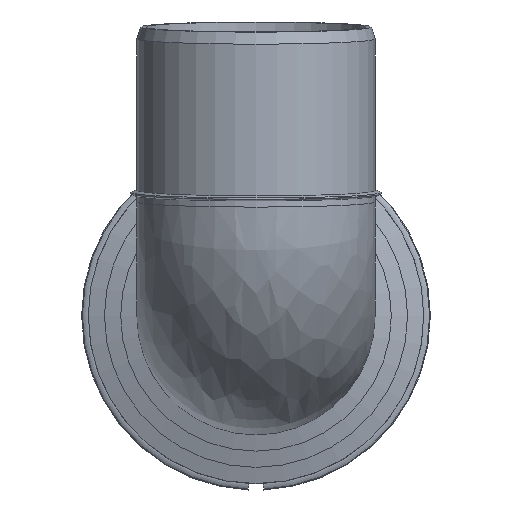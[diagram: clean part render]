
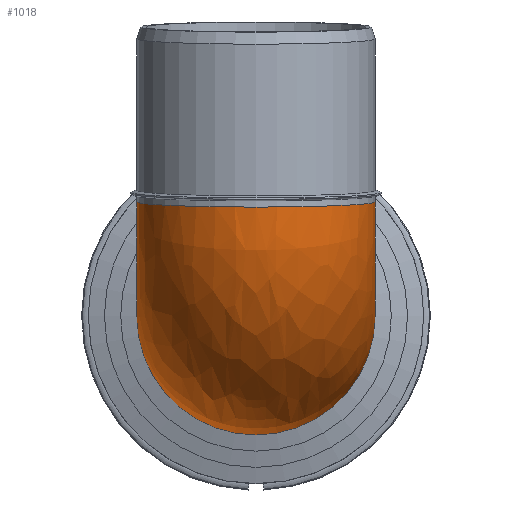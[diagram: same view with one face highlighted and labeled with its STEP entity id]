
A CAD part, left-side view. The second image highlights one B-rep face of the part: STEP entity #1018.
In plain terms, the highlighted free-form (B-spline) face has degree [2, 2] with [9, 9] control points.
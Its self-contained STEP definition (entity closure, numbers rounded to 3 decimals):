
#18=(
BOUNDED_SURFACE()
B_SPLINE_SURFACE(2,2,((#1817,#1818,#1819,#1820,#1821,#1822,#1823,#1824,
#1825),(#1826,#1827,#1828,#1829,#1830,#1831,#1832,#1833,#1834),(#1835,#1836,
#1837,#1838,#1839,#1840,#1841,#1842,#1843),(#1844,#1845,#1846,#1847,#1848,
#1849,#1850,#1851,#1852),(#1853,#1854,#1855,#1856,#1857,#1858,#1859,#1860,
#1861),(#1862,#1863,#1864,#1865,#1866,#1867,#1868,#1869,#1870),(#1871,#1872,
#1873,#1874,#1875,#1876,#1877,#1878,#1879),(#1880,#1881,#1882,#1883,#1884,
#1885,#1886,#1887,#1888),(#1889,#1890,#1891,#1892,#1893,#1894,#1895,#1896,
#1897)),.UNSPECIFIED.,.T.,.T.,.F.)
B_SPLINE_SURFACE_WITH_KNOTS((3,2,2,2,3),(3,2,2,2,3),(-3.142,
-1.571,0.,1.571,3.142),(-3.142,
-1.571,0.,1.571,3.142),.UNSPECIFIED.)
GEOMETRIC_REPRESENTATION_ITEM()
RATIONAL_B_SPLINE_SURFACE(((1.,0.707,1.,0.707,1.,
0.707,1.,0.707,1.),(0.707,0.5,0.707,
0.5,0.707,0.5,0.707,0.5,0.707),(1.,
0.707,1.,0.707,1.,0.707,1.,0.707,
1.),(0.707,0.5,0.707,0.5,
0.707,0.5,0.707,0.5,
0.707),(1.,0.707,1.,0.707,1.,0.707,
1.,0.707,1.),(0.707,0.5,0.707,
0.5,0.707,0.5,0.707,
0.5,0.707),(1.,0.707,1.,0.707,
1.,0.707,1.,0.707,1.),(0.707,0.5,0.707,
0.5,0.707,0.5,0.707,0.5,0.707),(1.,
0.707,1.,0.707,1.,0.707,1.,0.707,
1.)))
REPRESENTATION_ITEM($)
SURFACE()
);
#219=FACE_OUTER_BOUND($,#349,.T.);
#349=EDGE_LOOP($,(#838,#839));
#447=CIRCLE($,#1192,45.1);
#448=CIRCLE($,#1193,45.1);
#534=VERTEX_POINT($,#1815);
#636=EDGE_CURVE($,#534,#534,#447,.T.);
#637=EDGE_CURVE($,#534,#534,#448,.T.);
#838=ORIENTED_EDGE($,*,*,#636,.T.);
#839=ORIENTED_EDGE($,*,*,#637,.F.);
#1018=ADVANCED_FACE($,(#219),#18,.F.);
#1192=AXIS2_PLACEMENT_3D($,#1816,#1541,#1542);
#1193=AXIS2_PLACEMENT_3D($,#1898,#1543,#1544);
#1541=DIRECTION('center_axis',(-0.999,0.,-0.044));
#1542=DIRECTION('ref_axis',(-0.044,0.,0.999));
#1543=DIRECTION('center_axis',(0.,0.,-1.));
#1544=DIRECTION('ref_axis',(-1.,0.,0.));
#1815=CARTESIAN_POINT('',(45.1,0.,66.23));
#1816=CARTESIAN_POINT('Origin',(43.133,0.,111.287));
#1817=CARTESIAN_POINT('Ctrl Pts',(45.1,0.,66.23));
#1818=CARTESIAN_POINT('Ctrl Pts',(45.1,0.,66.23));
#1819=CARTESIAN_POINT('Ctrl Pts',(45.1,0.,66.23));
#1820=CARTESIAN_POINT('Ctrl Pts',(45.1,0.,66.23));
#1821=CARTESIAN_POINT('Ctrl Pts',(45.1,0.,66.23));
#1822=CARTESIAN_POINT('Ctrl Pts',(45.1,0.,66.23));
#1823=CARTESIAN_POINT('Ctrl Pts',(45.1,0.,66.23));
#1824=CARTESIAN_POINT('Ctrl Pts',(45.1,0.,66.23));
#1825=CARTESIAN_POINT('Ctrl Pts',(45.1,0.,66.23));
#1826=CARTESIAN_POINT('Ctrl Pts',(45.1,-45.1,66.23));
#1827=CARTESIAN_POINT('Ctrl Pts',(45.1,-45.1,66.23));
#1828=CARTESIAN_POINT('Ctrl Pts',(45.1,-45.1,66.23));
#1829=CARTESIAN_POINT('Ctrl Pts',(45.1,-45.1,66.23));
#1830=CARTESIAN_POINT('Ctrl Pts',(45.1,-45.1,66.23));
#1831=CARTESIAN_POINT('Ctrl Pts',(45.1,-45.1,66.23));
#1832=CARTESIAN_POINT('Ctrl Pts',(45.1,-45.1,66.23));
#1833=CARTESIAN_POINT('Ctrl Pts',(45.1,-45.1,66.23));
#1834=CARTESIAN_POINT('Ctrl Pts',(45.1,-45.1,66.23));
#1835=CARTESIAN_POINT('Ctrl Pts',(45.1,-45.1,21.13));
#1836=CARTESIAN_POINT('Ctrl Pts',(0.,-45.1,21.13));
#1837=CARTESIAN_POINT('Ctrl Pts',(0.,-45.1,66.23));
#1838=CARTESIAN_POINT('Ctrl Pts',(0.,-45.1,111.33));
#1839=CARTESIAN_POINT('Ctrl Pts',(45.1,-45.1,111.33));
#1840=CARTESIAN_POINT('Ctrl Pts',(90.2,-45.1,111.33));
#1841=CARTESIAN_POINT('Ctrl Pts',(90.2,-45.1,66.23));
#1842=CARTESIAN_POINT('Ctrl Pts',(90.2,-45.1,21.13));
#1843=CARTESIAN_POINT('Ctrl Pts',(45.1,-45.1,21.13));
#1844=CARTESIAN_POINT('Ctrl Pts',(45.1,-45.1,-23.97));
#1845=CARTESIAN_POINT('Ctrl Pts',(-45.1,-45.1,-23.97));
#1846=CARTESIAN_POINT('Ctrl Pts',(-45.1,-45.1,66.23));
#1847=CARTESIAN_POINT('Ctrl Pts',(-45.1,-45.1,156.43));
#1848=CARTESIAN_POINT('Ctrl Pts',(45.1,-45.1,156.43));
#1849=CARTESIAN_POINT('Ctrl Pts',(135.3,-45.1,156.43));
#1850=CARTESIAN_POINT('Ctrl Pts',(135.3,-45.1,66.23));
#1851=CARTESIAN_POINT('Ctrl Pts',(135.3,-45.1,-23.97));
#1852=CARTESIAN_POINT('Ctrl Pts',(45.1,-45.1,-23.97));
#1853=CARTESIAN_POINT('Ctrl Pts',(45.1,0.,-23.97));
#1854=CARTESIAN_POINT('Ctrl Pts',(-45.1,0.,-23.97));
#1855=CARTESIAN_POINT('Ctrl Pts',(-45.1,0.,66.23));
#1856=CARTESIAN_POINT('Ctrl Pts',(-45.1,0.,156.43));
#1857=CARTESIAN_POINT('Ctrl Pts',(45.1,0.,156.43));
#1858=CARTESIAN_POINT('Ctrl Pts',(135.3,0.,156.43));
#1859=CARTESIAN_POINT('Ctrl Pts',(135.3,0.,66.23));
#1860=CARTESIAN_POINT('Ctrl Pts',(135.3,0.,-23.97));
#1861=CARTESIAN_POINT('Ctrl Pts',(45.1,0.,-23.97));
#1862=CARTESIAN_POINT('Ctrl Pts',(45.1,45.1,-23.97));
#1863=CARTESIAN_POINT('Ctrl Pts',(-45.1,45.1,-23.97));
#1864=CARTESIAN_POINT('Ctrl Pts',(-45.1,45.1,66.23));
#1865=CARTESIAN_POINT('Ctrl Pts',(-45.1,45.1,156.43));
#1866=CARTESIAN_POINT('Ctrl Pts',(45.1,45.1,156.43));
#1867=CARTESIAN_POINT('Ctrl Pts',(135.3,45.1,156.43));
#1868=CARTESIAN_POINT('Ctrl Pts',(135.3,45.1,66.23));
#1869=CARTESIAN_POINT('Ctrl Pts',(135.3,45.1,-23.97));
#1870=CARTESIAN_POINT('Ctrl Pts',(45.1,45.1,-23.97));
#1871=CARTESIAN_POINT('Ctrl Pts',(45.1,45.1,21.13));
#1872=CARTESIAN_POINT('Ctrl Pts',(0.,45.1,21.13));
#1873=CARTESIAN_POINT('Ctrl Pts',(0.,45.1,66.23));
#1874=CARTESIAN_POINT('Ctrl Pts',(0.,45.1,111.33));
#1875=CARTESIAN_POINT('Ctrl Pts',(45.1,45.1,111.33));
#1876=CARTESIAN_POINT('Ctrl Pts',(90.2,45.1,111.33));
#1877=CARTESIAN_POINT('Ctrl Pts',(90.2,45.1,66.23));
#1878=CARTESIAN_POINT('Ctrl Pts',(90.2,45.1,21.13));
#1879=CARTESIAN_POINT('Ctrl Pts',(45.1,45.1,21.13));
#1880=CARTESIAN_POINT('Ctrl Pts',(45.1,45.1,66.23));
#1881=CARTESIAN_POINT('Ctrl Pts',(45.1,45.1,66.23));
#1882=CARTESIAN_POINT('Ctrl Pts',(45.1,45.1,66.23));
#1883=CARTESIAN_POINT('Ctrl Pts',(45.1,45.1,66.23));
#1884=CARTESIAN_POINT('Ctrl Pts',(45.1,45.1,66.23));
#1885=CARTESIAN_POINT('Ctrl Pts',(45.1,45.1,66.23));
#1886=CARTESIAN_POINT('Ctrl Pts',(45.1,45.1,66.23));
#1887=CARTESIAN_POINT('Ctrl Pts',(45.1,45.1,66.23));
#1888=CARTESIAN_POINT('Ctrl Pts',(45.1,45.1,66.23));
#1889=CARTESIAN_POINT('Ctrl Pts',(45.1,0.,66.23));
#1890=CARTESIAN_POINT('Ctrl Pts',(45.1,0.,66.23));
#1891=CARTESIAN_POINT('Ctrl Pts',(45.1,0.,66.23));
#1892=CARTESIAN_POINT('Ctrl Pts',(45.1,0.,66.23));
#1893=CARTESIAN_POINT('Ctrl Pts',(45.1,0.,66.23));
#1894=CARTESIAN_POINT('Ctrl Pts',(45.1,0.,66.23));
#1895=CARTESIAN_POINT('Ctrl Pts',(45.1,0.,66.23));
#1896=CARTESIAN_POINT('Ctrl Pts',(45.1,0.,66.23));
#1897=CARTESIAN_POINT('Ctrl Pts',(45.1,0.,66.23));
#1898=CARTESIAN_POINT('Origin',(0.,0.,66.23));
